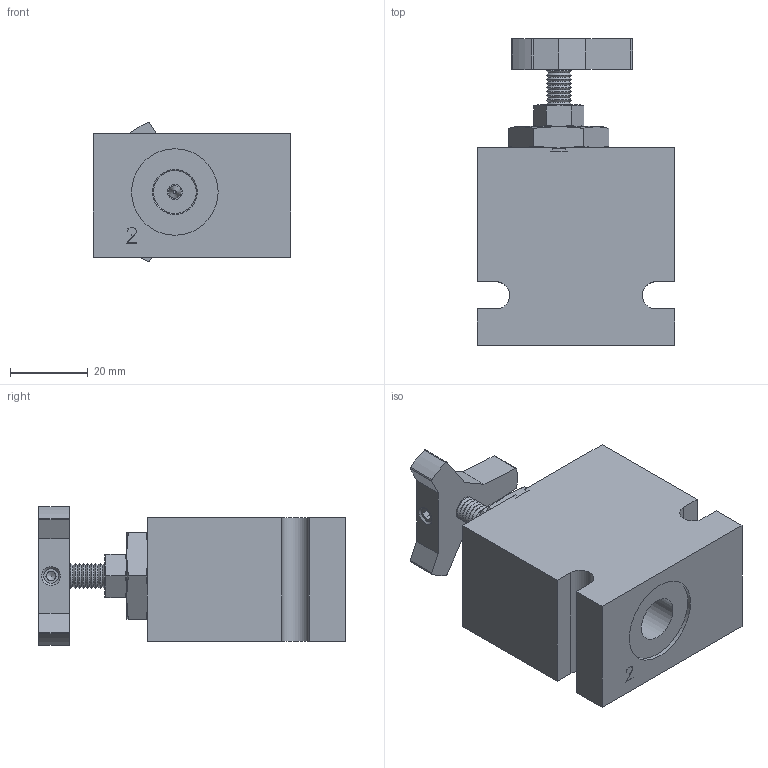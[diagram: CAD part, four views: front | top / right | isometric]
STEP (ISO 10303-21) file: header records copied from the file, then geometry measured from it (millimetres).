
FILE_DESCRIPTION( ( 'Unknown' ), '1' );
FILE_NAME( 'G:/Graphic Design/Graphic Design 2/Data Sheets/FLOW CONTROLS/2_STEP/Flow Restrictors, Adjustable (Needle Valves)/D-PBNVB0K-A2.stp', 'Unknown', ( 'Unknown' ), ( 'Unknown' ), 'PSStep 16.0.42', 'Unknown', ' ' );
FILE_SCHEMA( ( 'AUTOMOTIVE_DESIGN { 1 0 10303 214 1 1 1 1 }' ) );
Length unit declared in the file: millimetre
Products named in the file (11): PBNVB0K; PBNVB0K-3D Full1; PBNVB0K-3D Full2; PBNVB0K-3D Full3; PBNVB0K-3D Full4; PBNVB0K-3D Full5; PBNVB0K-3D Full6; PBNVB0K-3D Full7; PBNVB0K-3D Full8; Assem1; B-DPBA2
Assembly tree (10 placements, depth 3):
  Assem1
    B-DPBA2
    PBNVB0K
      PBNVB0K-3D Full1
      PBNVB0K-3D Full2
      PBNVB0K-3D Full3
      PBNVB0K-3D Full4
      PBNVB0K-3D Full5
      PBNVB0K-3D Full6
      PBNVB0K-3D Full7
      PBNVB0K-3D Full8
Bounding box: 50.8 x 78.68 x 35.54 mm (x, y, z)
Surface area: 22363.2 mm2 (no closed solid volume)
Topology: 0 solids, 289 shells, 289 faces, 1269 edges, 1154 vertices
Faces by surface type: cone 122, plane 115, cylinder 48, torus 4
Full cylindrical faces by diameter (mm): 0.2 x2, 1.575 x8, 2.388 x1, 3.886 x2, 6.35 x1, 8.433 x1, 9.842 x1, 9.893 x2, 10.5 x1, 11 x1, 11.5 x4, 12.586 x2, 12.624 x3, 12.7 x1, 16.751 x1, 17.33 x2, 22.22 x2, 22.225 x1
Entity records: 15342 total; most frequent: CARTESIAN_POINT 4308, DIRECTION 1748, VERTEX_POINT 1139, ORIENTED_EDGE 1136, EDGE_CURVE 1136, AXIS2_PLACEMENT_3D 727, FACE_BOUND 431, EDGE_LOOP 428
